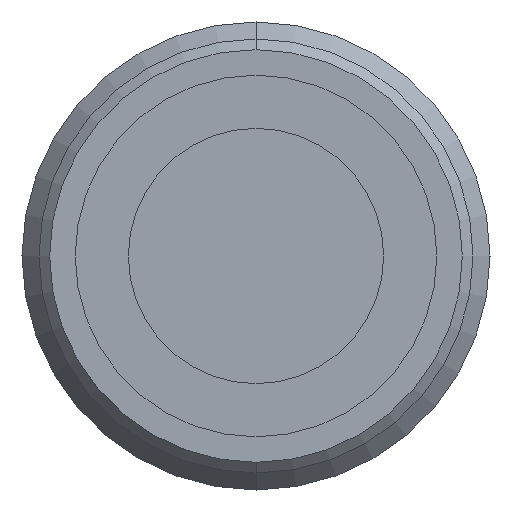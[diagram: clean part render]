
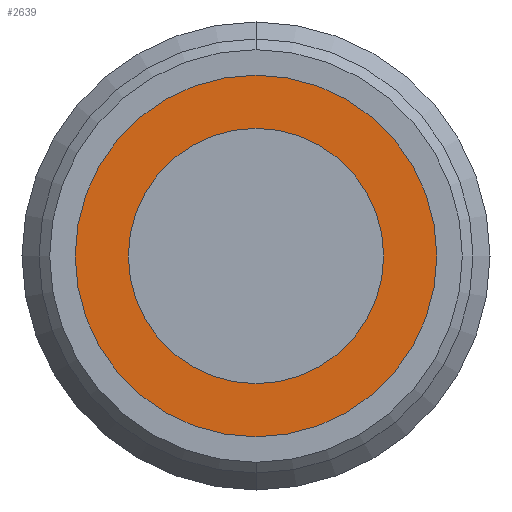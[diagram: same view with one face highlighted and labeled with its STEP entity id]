
A CAD part, front view. The second image highlights one B-rep face of the part: STEP entity #2639.
In plain terms, the highlighted planar face has unit normal (0, -1, 0).
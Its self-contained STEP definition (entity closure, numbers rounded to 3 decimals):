
#102 = DIRECTION ( 'NONE',  ( 0., 0., -1. ) ) ;
#354 = CARTESIAN_POINT ( 'NONE',  ( 0., -12.899, 0. ) ) ;
#406 = EDGE_LOOP ( 'NONE', ( #4166, #5190 ) ) ;
#572 = DIRECTION ( 'NONE',  ( 0., 0., -1. ) ) ;
#661 = CARTESIAN_POINT ( 'NONE',  ( 0., -12.899, 0. ) ) ;
#1198 = DIRECTION ( 'NONE',  ( 0., 0., -1. ) ) ;
#1282 = EDGE_LOOP ( 'NONE', ( #5317, #8571 ) ) ;
#1506 = DIRECTION ( 'NONE',  ( 0., 0., -1. ) ) ;
#1767 = AXIS2_PLACEMENT_3D ( 'NONE', #11105, #5621, #572 ) ;
#1917 = CARTESIAN_POINT ( 'NONE',  ( 0., -12.899, 6. ) ) ;
#2042 = CIRCLE ( 'NONE', #9855, 8.5 ) ;
#2394 = CARTESIAN_POINT ( 'NONE',  ( 0., -12.899, 8.5 ) ) ;
#2441 = VERTEX_POINT ( 'NONE', #1917 ) ;
#2628 = CIRCLE ( 'NONE', #1767, 6. ) ;
#2639 = ADVANCED_FACE ( 'NONE', ( #3118, #9937 ), #8538, .F. ) ;
#2870 = AXIS2_PLACEMENT_3D ( 'NONE', #10594, #5141, #102 ) ;
#3118 = FACE_BOUND ( 'NONE', #1282, .T. ) ;
#3169 = VERTEX_POINT ( 'NONE', #5118 ) ;
#4050 = CARTESIAN_POINT ( 'NONE',  ( -8.5, -12.899, 0. ) ) ;
#4085 = DIRECTION ( 'NONE',  ( 0., 0., 1. ) ) ;
#4097 = CARTESIAN_POINT ( 'NONE',  ( 0., -12.899, -6. ) ) ;
#4166 = ORIENTED_EDGE ( 'NONE', *, *, #4432, .T. ) ;
#4432 = EDGE_CURVE ( 'NONE', #3169, #8424, #2042, .T. ) ;
#5005 = AXIS2_PLACEMENT_3D ( 'NONE', #661, #6621, #1506 ) ;
#5118 = CARTESIAN_POINT ( 'NONE',  ( 0., -12.899, -8.5 ) ) ;
#5141 = DIRECTION ( 'NONE',  ( 0., -1., 0. ) ) ;
#5190 = ORIENTED_EDGE ( 'NONE', *, *, #9580, .T. ) ;
#5284 = CIRCLE ( 'NONE', #2870, 8.5 ) ;
#5317 = ORIENTED_EDGE ( 'NONE', *, *, #11348, .F. ) ;
#5621 = DIRECTION ( 'NONE',  ( 0., -1., 0. ) ) ;
#6214 = AXIS2_PLACEMENT_3D ( 'NONE', #4050, #9458, #4085 ) ;
#6301 = DIRECTION ( 'NONE',  ( 0., -1., 0. ) ) ;
#6621 = DIRECTION ( 'NONE',  ( 0., -1., 0. ) ) ;
#6828 = CIRCLE ( 'NONE', #5005, 6. ) ;
#7875 = VERTEX_POINT ( 'NONE', #4097 ) ;
#8424 = VERTEX_POINT ( 'NONE', #2394 ) ;
#8538 = PLANE ( 'NONE',  #6214 ) ;
#8571 = ORIENTED_EDGE ( 'NONE', *, *, #8758, .F. ) ;
#8758 = EDGE_CURVE ( 'NONE', #2441, #7875, #6828, .T. ) ;
#9458 = DIRECTION ( 'NONE',  ( 0., 1., 0. ) ) ;
#9580 = EDGE_CURVE ( 'NONE', #8424, #3169, #5284, .T. ) ;
#9855 = AXIS2_PLACEMENT_3D ( 'NONE', #354, #6301, #1198 ) ;
#9937 = FACE_OUTER_BOUND ( 'NONE', #406, .T. ) ;
#10594 = CARTESIAN_POINT ( 'NONE',  ( 0., -12.899, 0. ) ) ;
#11105 = CARTESIAN_POINT ( 'NONE',  ( 0., -12.899, 0. ) ) ;
#11348 = EDGE_CURVE ( 'NONE', #7875, #2441, #2628, .T. ) ;
